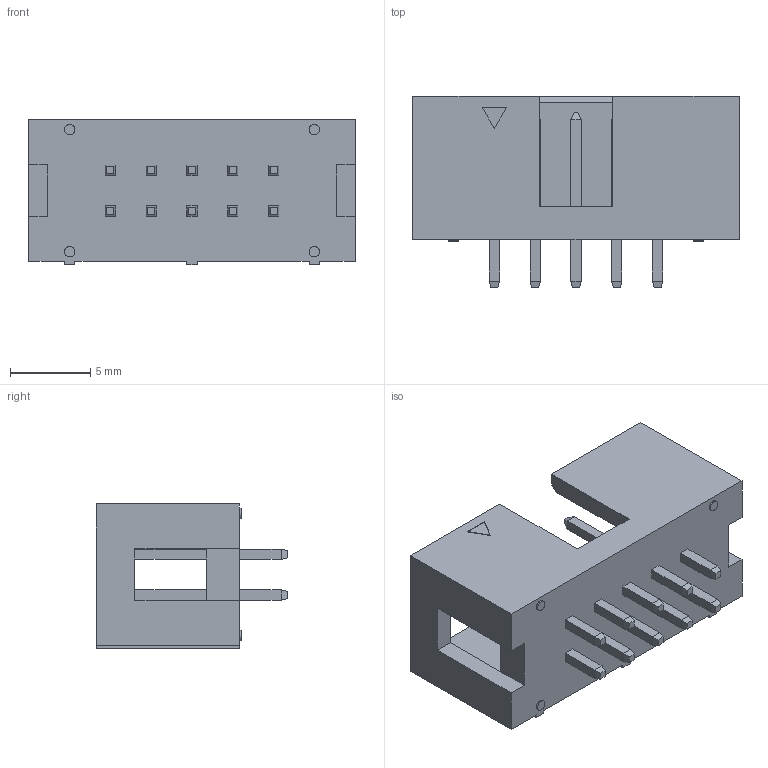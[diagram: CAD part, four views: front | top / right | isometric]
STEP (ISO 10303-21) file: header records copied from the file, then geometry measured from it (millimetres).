
FILE_DESCRIPTION((''),'2;1');
FILE_NAME('WSL_10G','2019-04-28T15:32:23',('cfrauzem'),(''),'CREO PARAMETRIC BY PTC INC, 2018050','CREO PARAMETRIC BY PTC INC, 2018050','');
FILE_SCHEMA(('AUTOMOTIVE_DESIGN { 1 0 10303 214 1 1 1 1 }'));
Length unit declared in the file: millimetre
Products named in the file (1): WSL_10G
Bounding box: 20.32 x 11.9 x 9.03 mm (x, y, z)
Volume: 740.3 mm3; surface area: 1357 mm2
Topology: 1 solids, 1 shells, 235 faces, 548 edges, 336 vertices
Faces by surface type: plane 227, cylinder 8
Entity records: 7993 total; most frequent: CARTESIAN_POINT 1121, ORIENTED_EDGE 1096, DIRECTION 1034, EDGE_CURVE 548, VECTOR 532, LINE 532, VERTEX_POINT 336, EDGE_LOOP 260
